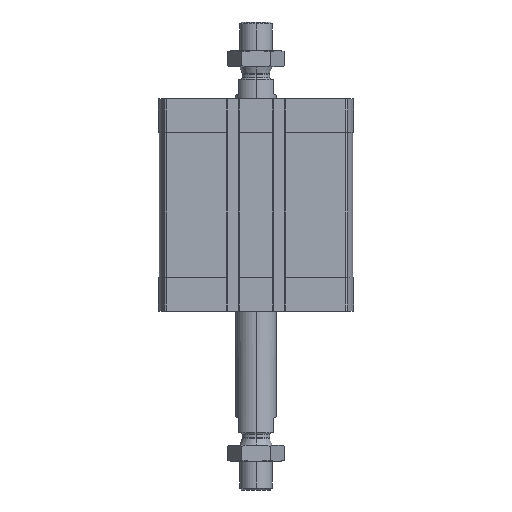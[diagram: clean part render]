
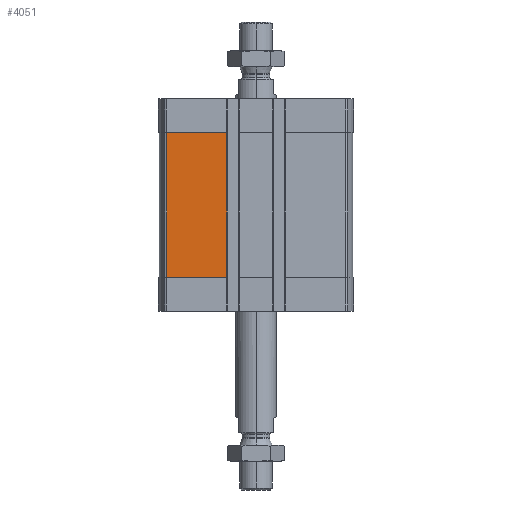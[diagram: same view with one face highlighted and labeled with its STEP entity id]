
A CAD part, left-side view. The second image highlights one B-rep face of the part: STEP entity #4051.
In plain terms, the highlighted planar face has unit normal (-1, 0, 0).
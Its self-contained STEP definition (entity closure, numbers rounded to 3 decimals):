
#892 = ORIENTED_EDGE ( 'NONE', *, *, #8661, .T. ) ;
#1016 = CARTESIAN_POINT ( 'NONE',  ( -47.5, 43.743, -16.5 ) ) ;
#1320 = CARTESIAN_POINT ( 'NONE',  ( -47.5, 14.3, -16.5 ) ) ;
#2280 = VECTOR ( 'NONE', #16957, 1000. ) ;
#2406 = EDGE_CURVE ( 'NONE', #3840, #5687, #16126, .T. ) ;
#2463 = VERTEX_POINT ( 'NONE', #14687 ) ;
#2645 = LINE ( 'NONE', #16500, #7307 ) ;
#3300 = ORIENTED_EDGE ( 'NONE', *, *, #11643, .T. ) ;
#3840 = VERTEX_POINT ( 'NONE', #13828 ) ;
#3928 = EDGE_LOOP ( 'NONE', ( #7115, #10853, #3300, #892 ) ) ;
#4027 = CARTESIAN_POINT ( 'NONE',  ( -47.5, 43.743, -87.5 ) ) ;
#4051 = ADVANCED_FACE ( 'NONE', ( #6124 ), #10349, .T. ) ;
#5519 = VECTOR ( 'NONE', #6518, 1000. ) ;
#5687 = VERTEX_POINT ( 'NONE', #1320 ) ;
#6124 = FACE_OUTER_BOUND ( 'NONE', #3928, .T. ) ;
#6329 = AXIS2_PLACEMENT_3D ( 'NONE', #9185, #9103, #7744 ) ;
#6518 = DIRECTION ( 'NONE',  ( 0., -1., 0. ) ) ;
#7115 = ORIENTED_EDGE ( 'NONE', *, *, #2406, .F. ) ;
#7307 = VECTOR ( 'NONE', #17586, 1000. ) ;
#7744 = DIRECTION ( 'NONE',  ( 0., 0., 1. ) ) ;
#8661 = EDGE_CURVE ( 'NONE', #2463, #5687, #2645, .T. ) ;
#9103 = DIRECTION ( 'NONE',  ( -1., 0., 0. ) ) ;
#9185 = CARTESIAN_POINT ( 'NONE',  ( -47.5, 43.743, -87.5 ) ) ;
#9864 = DIRECTION ( 'NONE',  ( 0., 0., 1. ) ) ;
#10349 = PLANE ( 'NONE',  #6329 ) ;
#10853 = ORIENTED_EDGE ( 'NONE', *, *, #16661, .F. ) ;
#10859 = LINE ( 'NONE', #4027, #11279 ) ;
#11279 = VECTOR ( 'NONE', #9864, 1000. ) ;
#11643 = EDGE_CURVE ( 'NONE', #12488, #2463, #15423, .T. ) ;
#12488 = VERTEX_POINT ( 'NONE', #17174 ) ;
#13828 = CARTESIAN_POINT ( 'NONE',  ( -47.5, 43.743, -16.5 ) ) ;
#14687 = CARTESIAN_POINT ( 'NONE',  ( -47.5, 14.3, -87.5 ) ) ;
#15423 = LINE ( 'NONE', #15691, #2280 ) ;
#15691 = CARTESIAN_POINT ( 'NONE',  ( -47.5, 43.743, -87.5 ) ) ;
#16126 = LINE ( 'NONE', #1016, #5519 ) ;
#16500 = CARTESIAN_POINT ( 'NONE',  ( -47.5, 14.3, -87.5 ) ) ;
#16661 = EDGE_CURVE ( 'NONE', #12488, #3840, #10859, .T. ) ;
#16957 = DIRECTION ( 'NONE',  ( 0., -1., 0. ) ) ;
#17174 = CARTESIAN_POINT ( 'NONE',  ( -47.5, 43.743, -87.5 ) ) ;
#17586 = DIRECTION ( 'NONE',  ( 0., 0., 1. ) ) ;
